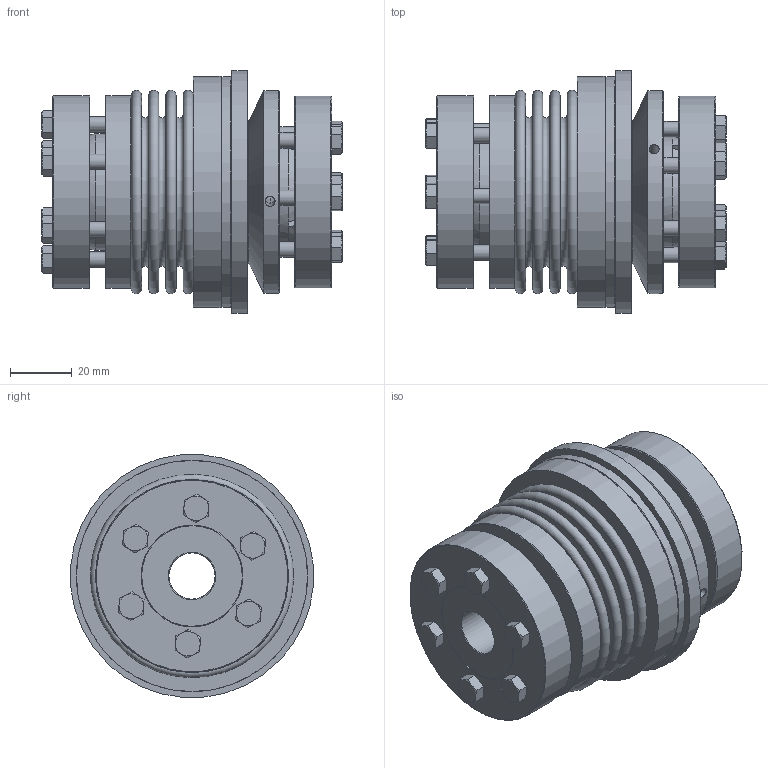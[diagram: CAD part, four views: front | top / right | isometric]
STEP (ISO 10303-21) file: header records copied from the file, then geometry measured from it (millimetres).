
FILE_DESCRIPTION( ( 'Unknown' ), '1' );
FILE_NAME( 'K:/Konstruktion/Korrigierte 3D Modelle/KBK-B-AA/KBK-BAA-60-97.stp', 'Unknown', ( 'Unknown' ), ( 'Unknown' ), 'PSStep 16.0.42', 'Unknown', ' ' );
FILE_SCHEMA( ( 'AUTOMOTIVE_DESIGN { 1 0 10303 214 1 1 1 1 }' ) );
Length unit declared in the file: millimetre
Products named in the file (18): KBK L-A-60 Grundkörper_0; Stellring 60_0; Druckring 60_0; Druckring L-A-60_0; din_en_24017_m5x20_0; A-60; BA6-60; DR60_Standard; Hex Screw GradeC_DIN_ISO 4018 - M5 x 25-NN; BA60_Standard; Assem1; BK60_Standard_0; Flansch BK60
Assembly tree (27 placements, depth 4):
  Assem1
    BK60_Standard_0
    Flansch BK60
    BA6-60
      DR60_Standard
      Hex Screw GradeC_DIN_ISO 4018 - M5 x 25-NN  x6
      BA60_Standard
    A-60
      Stellring 60_0
        Stellring 60_0
      Druckring 60_0
        Druckring 60_0
      KBK L-A-60 Grundkörper_0
        KBK L-A-60 Grundkörper_0
      din_en_24017_m5x20_0  x6
        din_en_24017_m5x20_0
      Druckring L-A-60_0
        Druckring L-A-60_0
Bounding box: 97.35 x 78.76 x 78.76 mm (x, y, z)
Volume: 220997.1 mm3; surface area: 111016.2 mm2
Topology: 20 solids, 20 shells, 396 faces, 820 edges, 518 vertices
Faces by surface type: plane 182, cone 118, cylinder 72, torus 24
Full cylindrical faces by diameter (mm): 3.242 x3, 4 x3, 4.134 x6, 4.2 x6, 5 x12, 5.5 x12, 6.88 x6, 15 x2, 33 x1, 35 x2, 35.937 x1, 37.937 x1, 42 x1, 46 x2, 46.5 x1, 47 x1, 56.3 x2, 57.3 x2, 61.3 x1, 62.5 x3, 66 x1, 75 x2, 79 x1
Entity records: 7214 total; most frequent: CARTESIAN_POINT 1220, DIRECTION 934, ORIENTED_EDGE 586, AXIS2_PLACEMENT_3D 443, EDGE_LOOP 392, EDGE_CURVE 293, FACE_OUTER_BOUND 277, VERTEX_POINT 253
